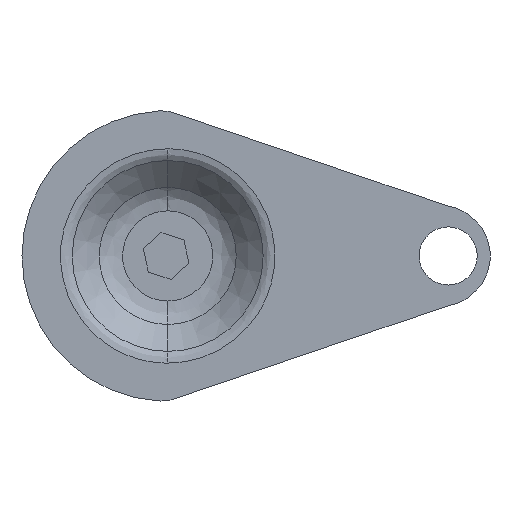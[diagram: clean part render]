
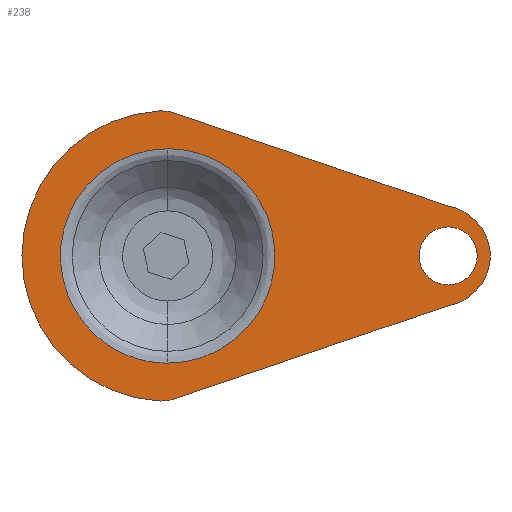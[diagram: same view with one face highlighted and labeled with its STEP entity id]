
A CAD part, front view. The second image highlights one B-rep face of the part: STEP entity #238.
In plain terms, the highlighted planar face has unit normal (0, -1, 0).
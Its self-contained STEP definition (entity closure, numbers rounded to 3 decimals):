
#39 = CARTESIAN_POINT ( 'NONE',  ( 50.135, -10.175, 12. ) ) ;
#53 = EDGE_CURVE ( 'NONE', #712, #1441, #2258, .T. ) ;
#85 = VERTEX_POINT ( 'NONE', #514 ) ;
#109 = CARTESIAN_POINT ( 'NONE',  ( -19.688, -10.175, -34.936 ) ) ;
#110 = DIRECTION ( 'NONE',  ( 0., 0., -1. ) ) ;
#119 = CARTESIAN_POINT ( 'NONE',  ( -17.458, -10.175, -25.828 ) ) ;
#138 = EDGE_CURVE ( 'NONE', #85, #1352, #1140, .T. ) ;
#150 = ORIENTED_EDGE ( 'NONE', *, *, #1344, .F. ) ;
#194 = ORIENTED_EDGE ( 'NONE', *, *, #718, .F. ) ;
#202 = CARTESIAN_POINT ( 'NONE',  ( -17.565, -10.175, 0. ) ) ;
#206 = EDGE_CURVE ( 'NONE', #1176, #405, #1988, .T. ) ;
#238 = ADVANCED_FACE ( 'NONE', ( #485, #1272, #2023 ), #2235, .F. ) ;
#264 = EDGE_CURVE ( 'NONE', #539, #1467, #799, .T. ) ;
#291 = VERTEX_POINT ( 'NONE', #2086 ) ;
#309 = CIRCLE ( 'NONE', #982, 7. ) ;
#340 =( BOUNDED_CURVE ( )  B_SPLINE_CURVE ( 3, ( #1348, #1407, #1256, #1237 ),
 .UNSPECIFIED., .F., .F. ) 
 B_SPLINE_CURVE_WITH_KNOTS ( ( 4, 4 ),
 ( 0., 1. ),
 .UNSPECIFIED. ) 
 CURVE ( )  GEOMETRIC_REPRESENTATION_ITEM ( )  RATIONAL_B_SPLINE_CURVE ( ( 1., 0.333, 0.333, 1. ) ) 
 REPRESENTATION_ITEM ( '' )  );
#405 = VERTEX_POINT ( 'NONE', #2062 ) ;
#420 = ORIENTED_EDGE ( 'NONE', *, *, #896, .F. ) ;
#429 = ORIENTED_EDGE ( 'NONE', *, *, #1698, .F. ) ;
#472 = DIRECTION ( 'NONE',  ( 0., 0., 1. ) ) ;
#485 = FACE_BOUND ( 'NONE', #1659, .T. ) ;
#500 = CARTESIAN_POINT ( 'NONE',  ( 50.135, -10.175, -12. ) ) ;
#514 = CARTESIAN_POINT ( 'NONE',  ( -19.688, -10.175, 34.936 ) ) ;
#527 = EDGE_CURVE ( 'NONE', #1467, #716, #1159, .T. ) ;
#531 = EDGE_LOOP ( 'NONE', ( #1801, #596, #589, #150, #690, #794, #420 ) ) ;
#539 = VERTEX_POINT ( 'NONE', #1127 ) ;
#558 = CARTESIAN_POINT ( 'NONE',  ( 50.135, -10.175, 7. ) ) ;
#589 = ORIENTED_EDGE ( 'NONE', *, *, #138, .F. ) ;
#596 = ORIENTED_EDGE ( 'NONE', *, *, #1707, .F. ) ;
#690 = ORIENTED_EDGE ( 'NONE', *, *, #527, .F. ) ;
#712 = VERTEX_POINT ( 'NONE', #1842 ) ;
#716 = VERTEX_POINT ( 'NONE', #109 ) ;
#718 = EDGE_CURVE ( 'NONE', #1441, #712, #309, .T. ) ;
#740 = VERTEX_POINT ( 'NONE', #119 ) ;
#767 = CARTESIAN_POINT ( 'NONE',  ( -19.082, -10.175, -34.954 ) ) ;
#794 = ORIENTED_EDGE ( 'NONE', *, *, #264, .F. ) ;
#796 = LINE ( 'NONE', #1197, #1079 ) ;
#799 = CIRCLE ( 'NONE', #1536, 10. ) ;
#896 = EDGE_CURVE ( 'NONE', #405, #539, #983, .T. ) ;
#909 = CARTESIAN_POINT ( 'NONE',  ( -19.082, -10.175, 24.954 ) ) ;
#923 = EDGE_LOOP ( 'NONE', ( #194, #1885 ) ) ;
#966 = DIRECTION ( 'NONE',  ( 0., 0., 1. ) ) ;
#982 = AXIS2_PLACEMENT_3D ( 'NONE', #2182, #1858, #1368 ) ;
#983 = LINE ( 'NONE', #500, #2087 ) ;
#990 = AXIS2_PLACEMENT_3D ( 'NONE', #1848, #1175, #472 ) ;
#991 = EDGE_CURVE ( 'NONE', #740, #291, #1537, .T. ) ;
#1028 = AXIS2_PLACEMENT_3D ( 'NONE', #1217, #1762, #1645 ) ;
#1039 = AXIS2_PLACEMENT_3D ( 'NONE', #909, #1149, #1493 ) ;
#1075 = CARTESIAN_POINT ( 'NONE',  ( 48.071, -10.175, 0. ) ) ;
#1079 = VECTOR ( 'NONE', #1168, 1000. ) ;
#1127 = CARTESIAN_POINT ( 'NONE',  ( -15.865, -10.175, -34.422 ) ) ;
#1140 = CIRCLE ( 'NONE', #1039, 10. ) ;
#1141 = DIRECTION ( 'NONE',  ( 0., 1., 0. ) ) ;
#1149 = DIRECTION ( 'NONE',  ( 0., 1., 0. ) ) ;
#1159 = CIRCLE ( 'NONE', #1028, 10. ) ;
#1168 = DIRECTION ( 'NONE',  ( 0.947, 0., -0.322 ) ) ;
#1175 = DIRECTION ( 'NONE',  ( 0., -1., 0. ) ) ;
#1176 = VERTEX_POINT ( 'NONE', #39 ) ;
#1177 = CARTESIAN_POINT ( 'NONE',  ( -17.458, -10.175, 25.828 ) ) ;
#1189 = CARTESIAN_POINT ( 'NONE',  ( 34.199, -10.175, 25.828 ) ) ;
#1197 = CARTESIAN_POINT ( 'NONE',  ( -15.865, -10.175, 34.422 ) ) ;
#1199 = DIRECTION ( 'NONE',  ( -0.947, 0., -0.322 ) ) ;
#1217 = CARTESIAN_POINT ( 'NONE',  ( -19.082, -10.175, -24.954 ) ) ;
#1237 = CARTESIAN_POINT ( 'NONE',  ( -17.458, -10.175, -25.828 ) ) ;
#1256 = CARTESIAN_POINT ( 'NONE',  ( -69.115, -10.175, -25.828 ) ) ;
#1272 = FACE_OUTER_BOUND ( 'NONE', #531, .T. ) ;
#1339 = DIRECTION ( 'NONE',  ( 0., 1., 0. ) ) ;
#1344 = EDGE_CURVE ( 'NONE', #716, #85, #1560, .T. ) ;
#1348 = CARTESIAN_POINT ( 'NONE',  ( -17.458, -10.175, 25.828 ) ) ;
#1352 = VERTEX_POINT ( 'NONE', #1834 ) ;
#1368 = DIRECTION ( 'NONE',  ( 0., 0., 1. ) ) ;
#1389 = AXIS2_PLACEMENT_3D ( 'NONE', #1075, #1141, #966 ) ;
#1407 = CARTESIAN_POINT ( 'NONE',  ( -69.115, -10.175, 25.828 ) ) ;
#1441 = VERTEX_POINT ( 'NONE', #558 ) ;
#1467 = VERTEX_POINT ( 'NONE', #767 ) ;
#1493 = DIRECTION ( 'NONE',  ( 0., 0., -1. ) ) ;
#1536 = AXIS2_PLACEMENT_3D ( 'NONE', #2227, #1339, #110 ) ;
#1537 =( BOUNDED_CURVE ( )  B_SPLINE_CURVE ( 3, ( #1705, #1686, #1189, #1177 ),
 .UNSPECIFIED., .F., .T. ) 
 B_SPLINE_CURVE_WITH_KNOTS ( ( 4, 4 ),
 ( 0., 1. ),
 .UNSPECIFIED. ) 
 CURVE ( )  GEOMETRIC_REPRESENTATION_ITEM ( )  RATIONAL_B_SPLINE_CURVE ( ( 1., 0.333, 0.333, 1. ) ) 
 REPRESENTATION_ITEM ( '' )  );
#1560 = CIRCLE ( 'NONE', #1887, 35. ) ;
#1645 = DIRECTION ( 'NONE',  ( 0., 0., -1. ) ) ;
#1659 = EDGE_LOOP ( 'NONE', ( #2195, #429 ) ) ;
#1686 = CARTESIAN_POINT ( 'NONE',  ( 34.199, -10.175, -25.828 ) ) ;
#1698 = EDGE_CURVE ( 'NONE', #291, #740, #340, .T. ) ;
#1705 = CARTESIAN_POINT ( 'NONE',  ( -17.458, -10.175, -25.828 ) ) ;
#1707 = EDGE_CURVE ( 'NONE', #1352, #1176, #796, .T. ) ;
#1762 = DIRECTION ( 'NONE',  ( 0., 1., 0. ) ) ;
#1801 = ORIENTED_EDGE ( 'NONE', *, *, #206, .F. ) ;
#1812 = DIRECTION ( 'NONE',  ( 0., 0., -1. ) ) ;
#1818 = CARTESIAN_POINT ( 'NONE',  ( -17.565, -10.175, 0. ) ) ;
#1822 = DIRECTION ( 'NONE',  ( 0., 1., 0. ) ) ;
#1834 = CARTESIAN_POINT ( 'NONE',  ( -15.865, -10.175, 34.422 ) ) ;
#1842 = CARTESIAN_POINT ( 'NONE',  ( 50.135, -10.175, -7. ) ) ;
#1848 = CARTESIAN_POINT ( 'NONE',  ( 50.135, -10.175, 0. ) ) ;
#1858 = DIRECTION ( 'NONE',  ( 0., -1., 0. ) ) ;
#1885 = ORIENTED_EDGE ( 'NONE', *, *, #53, .F. ) ;
#1887 = AXIS2_PLACEMENT_3D ( 'NONE', #1818, #1822, #1812 ) ;
#1895 = AXIS2_PLACEMENT_3D ( 'NONE', #202, #2208, #1901 ) ;
#1901 = DIRECTION ( 'NONE',  ( 0., 0., 1. ) ) ;
#1988 = CIRCLE ( 'NONE', #1389, 12.176 ) ;
#2023 = FACE_BOUND ( 'NONE', #923, .T. ) ;
#2062 = CARTESIAN_POINT ( 'NONE',  ( 50.135, -10.175, -12. ) ) ;
#2086 = CARTESIAN_POINT ( 'NONE',  ( -17.458, -10.175, 25.828 ) ) ;
#2087 = VECTOR ( 'NONE', #1199, 1000. ) ;
#2182 = CARTESIAN_POINT ( 'NONE',  ( 50.135, -10.175, 0. ) ) ;
#2195 = ORIENTED_EDGE ( 'NONE', *, *, #991, .F. ) ;
#2208 = DIRECTION ( 'NONE',  ( 0., 1., 0. ) ) ;
#2227 = CARTESIAN_POINT ( 'NONE',  ( -19.082, -10.175, -24.954 ) ) ;
#2235 = PLANE ( 'NONE',  #1895 ) ;
#2258 = CIRCLE ( 'NONE', #990, 7. ) ;
